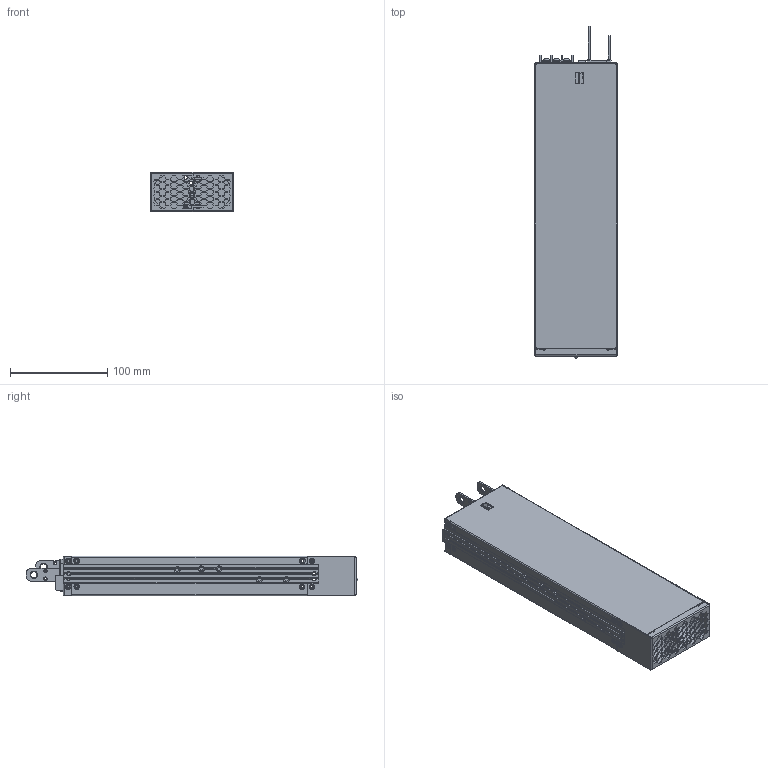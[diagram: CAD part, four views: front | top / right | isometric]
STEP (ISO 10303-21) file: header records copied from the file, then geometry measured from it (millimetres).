
FILE_DESCRIPTION((''),'2;1');
FILE_NAME('RSP-1600_ASM','2023-04-17T',('Vincent.Kao'),(''),'CREO PARAMETRIC BY PTC INC, 2016260','CREO PARAMETRIC BY PTC INC, 2016260','');
FILE_SCHEMA(('AUTOMOTIVE_DESIGN { 1 0 10303 214 1 1 1 1 }'));
Products named in the file (44): _X2_0192_X0_T_S_B_S__1; P2_2_1; HS; FN; MHL-24; MHL-24_STP_ASM; A1-520450; A1_3; 952_1_ASM; TR-4RL; TR-4RL_STP_ASM; MOS_ASM; _X2_628A624B_X0_B; A1-510520_ASM; _X2_0192_X0_T_S_B_S__2; M3-7L_1; _S_JU_S____ASM; A1-636920_ASM; C-C; P7_1_1; B_X2_55AE6A5F_X0_; P7; B_X2_55AE6A5F_X0__1_1; B_X2_55AE6A5F_X0__1_2; C-B_ASM; A2-407830_ASM; E32; A2_1_ASM; V; _X2_55AE6A5F_X0__1_1_1_1_ASM; P4_1; SS_1; P4; P2; _X2_6B638F3851FA_X0__2; _X2_8CA08F3851FA_X0__1; A2-123530_ASM; PCB2; PCB2_1; A1-82480_ASM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
Assembly tree (45 placements, depth 7):
  RSP-1600_ASM
    RSP-1600_1_ASM
      _X2_55AE6A5F_X0__1_1_1_1_ASM
        A1-636920_ASM
          _X2_0192_X0_T_S_B_S__1
          952_1_ASM
            P2_2_1
            HS
            FN  x2
            MHL-24_STP_ASM
              MHL-24
            A1-520450
            A1_3
          MOS_ASM
            TR-4RL_STP_ASM
              TR-4RL
          A1-510520_ASM
            _X2_628A624B_X0_B
          _X2_0192_X0_T_S_B_S__2
          _S_JU_S____ASM
            M3-7L_1
        A2-407830_ASM
          C-C
          C-B_ASM
            P7_1_1
            B_X2_55AE6A5F_X0_
            P7
            B_X2_55AE6A5F_X0__1_1
            B_X2_55AE6A5F_X0__1_2
        A2_1_ASM
          E32
        V
      P4_1
      SS_1
      P4
      P2
      A2-123530_ASM
        _X2_6B638F3851FA_X0__2
        _X2_8CA08F3851FA_X0__1
      A1-82480_ASM
        PCB2
        PCB2_1
      SS
      GG_2_1_1_1_1  x2
Bounding box: 85 x 340.8 x 40.8 mm (x, y, z)
Volume: 205557.5 mm3; surface area: 276646.1 mm2
Topology: 23 solids, 24 shells, 1830 faces, 5072 edges, 3274 vertices
Faces by surface type: plane 1066, cylinder 500, cone 122, bspline 74, torus 36, sphere 32
Entity records: 81908 total; most frequent: CARTESIAN_POINT 19326, ORIENTED_EDGE 9704, DIRECTION 9223, PRESENTATION_STYLE_ASSIGNMENT 4934, STYLED_ITEM 4874, CURVE_STYLE 4852, EDGE_CURVE 4852, VECTOR 3351
